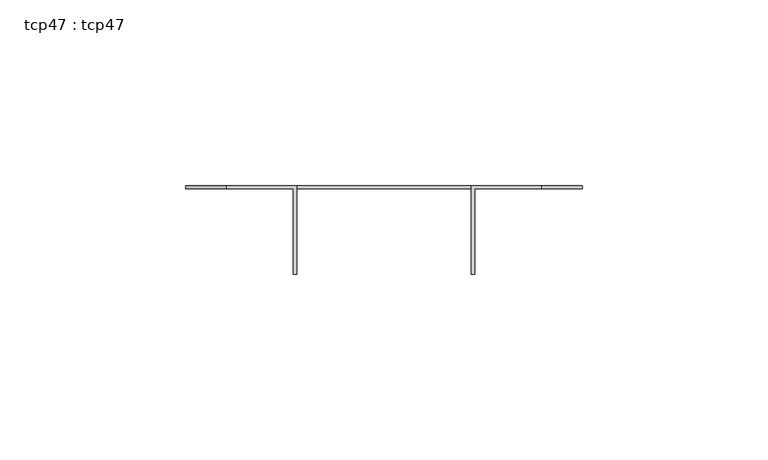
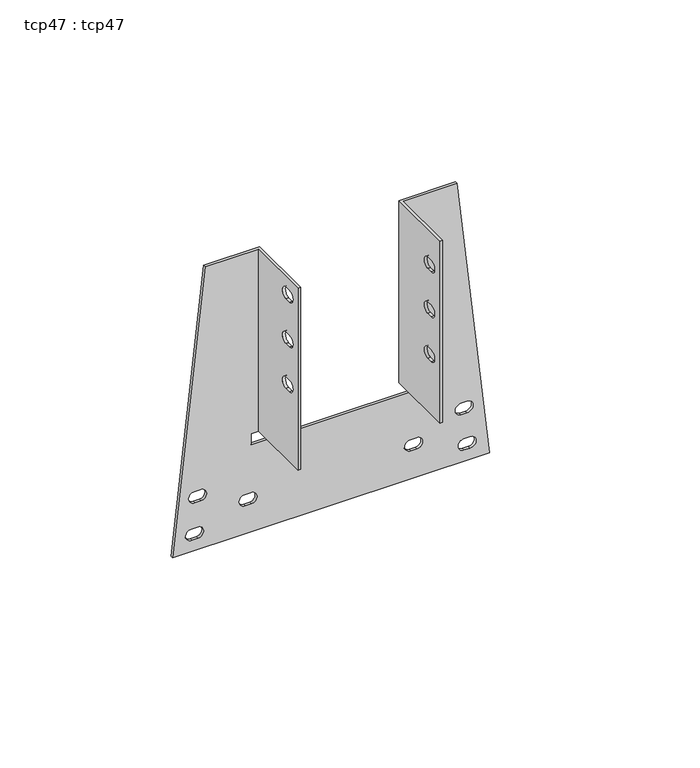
"""IFC4 building model written with IfcOpenShell, lengths in millimetres: fastener geometry, tcp47 : tcp47."""

import ifcopenshell
import ifcopenshell.guid

model = None  # the IFC model being written
_history = None  # IfcOwnerHistory: only IFC2X3 demands one
_inside = {}  # id of a spatial element -> (the spatial element, [elements in it])
_under = {}  # id of a project, library or spatial element -> (it, [spatial elements below it])
_declared = {}  # id of a project -> (the project, [libraries it declares])
_typed = {}  # id of a type object -> (the type object, [elements of that type])
_made_of = {}  # id of a material, layer set ... -> (it, [elements and type objects made of it])


def new_model(schema):
    """Start an empty IFC model of exactly this schema.

    Asked for "IFC4X3", IfcOpenShell would pick the latest addendum, in which some entities
    have other attributes; the version numbers below select the first issue.
    IFC2X3 requires an IfcOwnerHistory on every rooted entity: one is made here for all.
    """
    global model, _history
    if schema == "IFC4X3":
        model = ifcopenshell.file(schema_version=(4, 3, 0, 0))
    else:
        model = ifcopenshell.file(schema=schema)
    _inside.clear()
    _under.clear()
    _declared.clear()
    _typed.clear()
    _made_of.clear()
    _history = None
    if model.schema == "IFC2X3":
        org = make("IfcOrganization", Name="unknown")
        user = make(
            "IfcPersonAndOrganization",
            ThePerson=make("IfcPerson", FamilyName="unknown"),
            TheOrganization=org,
        )
        app = make(
            "IfcApplication",
            ApplicationDeveloper=org,
            Version="unknown",
            ApplicationFullName="unknown",
            ApplicationIdentifier="unknown",
        )
        _history = make(
            "IfcOwnerHistory",
            OwningUser=user,
            OwningApplication=app,
            ChangeAction="ADDED",
            CreationDate=0,
        )
    return model


def make(cls, **values):
    """One entity of the class cls with the attributes given. An attribute that is None is left unset."""
    return model.create_entity(
        cls, **{name: value for name, value in values.items() if value is not None}
    )


def rooted(cls, **values):
    """An entity with a GlobalId (a new one), such as an element, a storey or a relation."""
    return make(cls, GlobalId=ifcopenshell.guid.new(), OwnerHistory=_history, **values)


def si_unit(unit_type, name, prefix=None):
    """IfcSIUnit, for example si_unit("LENGTHUNIT", "METRE", prefix="MILLI")."""
    return make("IfcSIUnit", UnitType=unit_type, Prefix=prefix, Name=name)


def assignment(units):
    """IfcUnitAssignment: the units of a project."""
    return None if units is None else make("IfcUnitAssignment", Units=units)


def point(xyz):
    """IfcCartesianPoint."""
    return None if xyz is None else make("IfcCartesianPoint", Coordinates=xyz)


def direction(xyz):
    """IfcDirection."""
    return None if xyz is None else make("IfcDirection", DirectionRatios=xyz)


def frame(location, z_axis=None, x_axis=None):
    """IfcAxis2Placement3D, a coordinate frame: its origin and axes. An axis left out is left unset."""
    return make(
        "IfcAxis2Placement3D",
        Location=point(location),
        Axis=direction(z_axis),
        RefDirection=direction(x_axis),
    )


def origin():
    """The frame at (0, 0, 0) with its axes left unset."""
    return frame((0.0, 0.0, 0.0))


def place(relative_to, where):
    """IfcLocalPlacement: puts the frame where relative to a parent placement (None: the world)."""
    return make(
        "IfcLocalPlacement", PlacementRelTo=relative_to, RelativePlacement=where
    )


def context(
    kind, dimensions, precision=None, world=None, true_north=None, identifier=None
):
    """IfcGeometricRepresentationContext, for example the 3D "Model" context."""
    return make(
        "IfcGeometricRepresentationContext",
        ContextIdentifier=identifier,
        ContextType=kind,
        CoordinateSpaceDimension=dimensions,
        Precision=precision,
        WorldCoordinateSystem=world,
        TrueNorth=true_north,
    )


def project(units=None, contexts=None):
    """IfcProject with its units and contexts."""
    return rooted(
        "IfcProject",
        Name="project",
        RepresentationContexts=contexts,
        UnitsInContext=assignment(units),
    )


def spatial(cls, under=None, at=None, **own):
    """A site, building, storey or space (cls), placed at a placement, below another one or the project."""
    s = rooted(cls, ObjectPlacement=at, **own)
    if under is not None:
        _under.setdefault(under.id(), (under, []))[1].append(s)
    return s


def polyline(points):
    """IfcPolyline through the points."""
    return make("IfcPolyline", Points=[point(p) for p in points])


def circle_curve(where, radius):
    """IfcCircle in the frame where."""
    return make("IfcCircle", Position=where, Radius=radius)


def shape(context_of_items, identifier, shape_type, items):
    """IfcShapeRepresentation: the items that make up one representation, for example the "Body"."""
    return make(
        "IfcShapeRepresentation",
        ContextOfItems=context_of_items,
        RepresentationIdentifier=identifier,
        RepresentationType=shape_type,
        Items=items,
    )


def source(mapping_origin, context_of_items, identifier, shape_type, items):
    """IfcRepresentationMap: a shape defined once, which mapped items show again and again."""
    return make(
        "IfcRepresentationMap",
        MappingOrigin=mapping_origin,
        MappedRepresentation=shape(context_of_items, identifier, shape_type, items),
    )


def transform(
    local_origin,
    x_axis=None,
    y_axis=None,
    z_axis=None,
    scale=None,
    scale2=None,
    scale3=None,
    uniform=True,
):
    """IfcCartesianTransformationOperator3D, or its non-uniform kind. x_axis, y_axis, z_axis: its Axis1, 2, 3."""
    if uniform:
        return make(
            "IfcCartesianTransformationOperator3D",
            Axis1=direction(x_axis),
            Axis2=direction(y_axis),
            LocalOrigin=point(local_origin),
            Scale=scale,
            Axis3=direction(z_axis),
        )
    return make(
        "IfcCartesianTransformationOperator3DnonUniform",
        Axis1=direction(x_axis),
        Axis2=direction(y_axis),
        LocalOrigin=point(local_origin),
        Scale=scale,
        Axis3=direction(z_axis),
        Scale2=scale2,
        Scale3=scale3,
    )


def mapped(mapping_source, mapping_target):
    """IfcMappedItem: shows the shape of a source again, moved by a transform."""
    return make(
        "IfcMappedItem", MappingSource=mapping_source, MappingTarget=mapping_target
    )


def made_of(thing, what):
    """Note that an element or type object is made of a material, layer set ...; save() writes the relation."""
    if what is not None:
        _made_of.setdefault(what.id(), (what, []))[1].append(thing)
    return thing


def element(
    cls,
    number,
    at=None,
    inside=None,
    cuts=None,
    type_object=None,
    material=None,
    context=None,
    identifier="Body",
    shape_type=None,
    held_by="IfcProductDefinitionShape",
    body=None,
    shapes=None,
    **own,
):
    """One element of the class cls, such as IfcWall. Its Tag is "e" and its number.

    at: its placement. inside: the storey or other place that contains it. cuts: it is an
    opening in that element (IfcRelVoidsElement). A single representation is given by context,
    identifier, shape_type and body (its items); several are given by shapes. held_by: the class
    of the entity that holds the representations. save() writes the other relations.
    """
    e = rooted(cls, Tag="e%d" % number, ObjectPlacement=at, **own)
    if body is not None:
        shapes = [shape(context, identifier, shape_type, body)]
    if shapes is not None:
        e.Representation = make(held_by, Representations=shapes)
    if inside is not None:
        _inside.setdefault(inside.id(), (inside, []))[1].append(e)
    if cuts is not None:
        rooted(
            "IfcRelVoidsElement", RelatingBuildingElement=cuts, RelatedOpeningElement=e
        )
    if type_object is not None:
        _typed.setdefault(type_object.id(), (type_object, []))[1].append(e)
    return made_of(e, material)


def aggregate(whole, parts):
    """IfcRelAggregates: a whole, such as a stair, and the parts it consists of."""
    return rooted("IfcRelAggregates", RelatingObject=whole, RelatedObjects=parts)


def save(model, path):
    """Write the relations noted so far, then the file.

    IfcRelAggregates (storeys below a building ...), IfcRelContainedInSpatialStructure (elements
    in a storey), IfcRelDefinesByType, IfcRelAssociatesMaterial and IfcRelDeclares: one each for
    every whole, place, type object, material and project.
    """
    for whole, parts in _under.values():
        aggregate(whole, parts)
    for where, things in _inside.values():
        rooted(
            "IfcRelContainedInSpatialStructure",
            RelatedElements=things,
            RelatingStructure=where,
        )
    for kind, things in _typed.values():
        rooted("IfcRelDefinesByType", RelatedObjects=things, RelatingType=kind)
    for what, things in _made_of.values():
        rooted("IfcRelAssociatesMaterial", RelatedObjects=things, RelatingMaterial=what)
    for by, libraries in _declared.values():
        rooted("IfcRelDeclares", RelatingContext=by, RelatedDefinitions=libraries)
    model.write(path)


def plane_surface(at):
    """IfcPlane: the flat surface through the origin of the frame at, square to its z axis."""
    return make("IfcPlane", Position=at)


def revolved_surface(curve, axis_point, axis_direction):
    """IfcSurfaceOfRevolution: the curve turned about the line through axis_point along axis_direction."""
    return make(
        "IfcSurfaceOfRevolution",
        SweptCurve=make("IfcArbitraryOpenProfileDef", ProfileType="CURVE", Curve=curve),
        AxisPosition=make("IfcAxis1Placement", Location=point(axis_point), Axis=direction(axis_direction)),
    )


def advanced_brep(points, edges, surfaces, faces):
    """IfcAdvancedBrep: a solid bounded by faces that lie on surfaces and meet in shared edges.

    An edge is (start, end): straight between two places in points (the first is 0);
    or (start, end, curve); or (start, end, curve, False) where it runs against its curve.
    A face is (place in surfaces, loops), or (place, loops, False) where it looks against
    its surface's normal. A loop lists edges by number (the first is 1), with a minus sign
    where the edge is run from its end to its start. The first loop is the outer one.
    """
    corners = [point(p) for p in points]
    vertices = [make("IfcVertexPoint", VertexGeometry=c) for c in corners]
    made = []
    for start, end, *more in edges:
        made.append(
            make(
                "IfcEdgeCurve",
                EdgeStart=vertices[start],
                EdgeEnd=vertices[end],
                EdgeGeometry=more[0] if more else make("IfcPolyline", Points=[corners[start], corners[end]]),
                SameSense=more[1] if len(more) > 1 else True,
            )
        )
    hull = []
    for where, loops, *sense in faces:
        bounds = []
        for j, loop in enumerate(loops):
            ring = [make("IfcOrientedEdge", EdgeElement=made[abs(k) - 1], Orientation=k > 0) for k in loop]
            bounds.append(
                make(
                    "IfcFaceOuterBound" if j == 0 else "IfcFaceBound",
                    Bound=make("IfcEdgeLoop", EdgeList=ring),
                    Orientation=True,
                )
            )
        hull.append(make("IfcAdvancedFace", Bounds=bounds, FaceSurface=surfaces[where], SameSense=sense[0] if sense else True))
    return make("IfcAdvancedBrep", Outer=make("IfcClosedShell", CfsFaces=hull))


def tcp47_tcp47_5fc6ffc4(model_context):
    return source(origin(), model_context, "Body", "AdvancedBrep", [
        advanced_brep(
        [(24.4, -18.9, 23.0), (24.4, -18.9, 19.0), (23.5, -18.9, 19.0), (23.5, -18.9, 23.0), (24.4, -16.9, 19.0), (23.5, -16.9, 19.0), (24.4, -16.9, 23.0), (23.5, -16.9, 23.0), (24.4, -18.9, 39.0), (24.4, -18.9, 35.0), (23.5, -18.9, 35.0), (23.5, -18.9, 39.0), (24.4, -16.9, 35.0), (23.5, -16.9, 35.0), (24.4, -16.9, 39.0), (23.5, -16.9, 39.0), (24.4, -18.9, 55.0), (24.4, -18.9, 51.0), (23.5, -18.9, 51.0), (23.5, -18.9, 55.0), (24.4, -16.9, 51.0), (23.5, -16.9, 51.0), (24.4, -16.9, 55.0), (23.5, -16.9, 55.0), (-24.4, -16.9, 29.0), (-24.4, -16.9, 25.0), (-23.5, -16.9, 25.0), (-23.5, -16.9, 29.0), (-24.4, -18.9, 25.0), (-23.5, -18.9, 25.0), (-24.4, -18.9, 29.0), (-23.5, -18.9, 29.0), (-24.4, -16.9, 45.0), (-24.4, -16.9, 41.0), (-23.5, -16.9, 41.0), (-23.5, -16.9, 45.0), (-24.4, -18.9, 41.0), (-23.5, -18.9, 41.0), (-24.4, -18.9, 45.0), (-23.5, -18.9, 45.0), (-24.4, -16.9, 61.0), (-24.4, -16.9, 57.0), (-23.5, -16.9, 57.0), (-23.5, -16.9, 61.0), (-24.4, -18.9, 57.0), (-23.5, -18.9, 57.0), (-24.4, -18.9, 61.0), (-23.5, -18.9, 61.0), (47.0, -0.9, -31.0), (47.0, -0.9, -27.0), (47.0, 0.0, -27.0), (47.0, 0.0, -31.0), (45.0, -0.9, -31.0), (45.0, 0.0, -31.0), (45.0, -0.9, -27.0), (45.0, 0.0, -27.0), (46.0, -0.9, -18.0), (46.0, -0.9, -14.0), (46.0, 0.0, -14.0), (46.0, 0.0, -18.0), (44.0, -0.9, -18.0), (44.0, 0.0, -18.0), (44.0, -0.9, -14.0), (44.0, 0.0, -14.0), (29.0, -0.9, -25.0), (29.0, -0.9, -21.0), (29.0, 0.0, -21.0), (29.0, 0.0, -25.0), (27.0, -0.9, -25.0), (27.0, 0.0, -25.0), (27.0, -0.9, -21.0), (27.0, 0.0, -21.0), (24.4, -0.9, 0.0), (24.4, -0.9, 65.0), (24.4, -23.9, 65.0), (24.4, -23.9, 0.0), (23.5, -23.9, 65.0), (23.5, -23.9, 0.0), (53.5, 0.0, -35.0), (42.5, 0.0, 65.0), (42.5, -0.9, 65.0), (53.5, -0.9, -35.0), (23.5, 0.0, 65.0), (23.5, 0.0, 0.0), (27.0, 0.0, 0.0), (27.0, -0.9, 0.0), (27.0, 0.0, -4.0), (27.0, -0.9, -4.0), (-47.0, -0.9, -27.0), (-47.0, -0.9, -31.0), (-47.0, 0.0, -31.0), (-47.0, 0.0, -27.0), (-45.0, -0.9, -31.0), (-45.0, 0.0, -31.0), (-45.0, -0.9, -27.0), (-45.0, 0.0, -27.0), (-46.0, -0.9, -14.0), (-46.0, -0.9, -18.0), (-46.0, 0.0, -18.0), (-46.0, 0.0, -14.0), (-44.0, -0.9, -18.0), (-44.0, 0.0, -18.0), (-44.0, -0.9, -14.0), (-44.0, 0.0, -14.0), (-29.0, -0.9, -21.0), (-29.0, -0.9, -25.0), (-29.0, 0.0, -25.0), (-29.0, 0.0, -21.0), (-27.0, -0.9, -25.0), (-27.0, 0.0, -25.0), (-27.0, -0.9, -21.0), (-27.0, 0.0, -21.0), (-24.4, -0.9, 65.0), (-24.4, -0.9, 0.0), (-24.4, -23.9, 0.0), (-24.4, -23.9, 65.0), (-23.5, -23.9, 0.0), (-23.5, -23.9, 65.0), (-53.5, 0.0, -35.0), (-53.5, -0.9, -35.0), (-42.5, 0.0, 65.0), (-42.5, -0.9, 65.0), (-23.5, 0.0, 65.0), (-23.5, 0.0, 0.0), (-27.0, 0.0, 0.0), (-27.0, -0.9, 0.0), (-27.0, 0.0, -4.0), (-27.0, -0.9, -4.0)],
        [
            (0, 1, circle_curve(frame((24.4, -18.9, 21.0), z_axis=(1.0, 0.0, 0.0), x_axis=(0.0, 0.0, -1.0)), 2.0)),
            (1, 2),
            (2, 3, circle_curve(frame((23.5, -18.9, 21.0), z_axis=(-1.0, 0.0, 0.0), x_axis=(0.0, 0.0, -1.0)), 2.0)),
            (3, 0),
            (1, 4),
            (4, 5),
            (5, 2),
            (4, 6, circle_curve(frame((24.4, -16.9, 21.0), z_axis=(1.0, 0.0, 0.0), x_axis=(0.0, 0.0, 1.0)), 2.0)),
            (6, 7),
            (7, 5, circle_curve(frame((23.5, -16.9, 21.0), z_axis=(-1.0, 0.0, 0.0), x_axis=(0.0, 0.0, 1.0)), 2.0)),
            (6, 0),
            (3, 7),
            (8, 9, circle_curve(frame((24.4, -18.9, 37.0), z_axis=(1.0, 0.0, 0.0), x_axis=(0.0, 0.0, -1.0)), 2.0)),
            (9, 10),
            (10, 11, circle_curve(frame((23.5, -18.9, 37.0), z_axis=(-1.0, 0.0, 0.0), x_axis=(0.0, 0.0, -1.0)), 2.0)),
            (11, 8),
            (9, 12),
            (12, 13),
            (13, 10),
            (12, 14, circle_curve(frame((24.4, -16.9, 37.0), z_axis=(1.0, 0.0, 0.0), x_axis=(0.0, 0.0, 1.0)), 2.0)),
            (14, 15),
            (15, 13, circle_curve(frame((23.5, -16.9, 37.0), z_axis=(-1.0, 0.0, 0.0), x_axis=(0.0, 0.0, 1.0)), 2.0)),
            (14, 8),
            (11, 15),
            (16, 17, circle_curve(frame((24.4, -18.9, 53.0), z_axis=(1.0, 0.0, 0.0), x_axis=(0.0, 0.0, -1.0)), 2.0)),
            (17, 18),
            (18, 19, circle_curve(frame((23.5, -18.9, 53.0), z_axis=(-1.0, 0.0, 0.0), x_axis=(0.0, 0.0, -1.0)), 2.0)),
            (19, 16),
            (17, 20),
            (20, 21),
            (21, 18),
            (20, 22, circle_curve(frame((24.4, -16.9, 53.0), z_axis=(1.0, 0.0, 0.0), x_axis=(0.0, 0.0, 1.0)), 2.0)),
            (22, 23),
            (23, 21, circle_curve(frame((23.5, -16.9, 53.0), z_axis=(-1.0, 0.0, 0.0), x_axis=(0.0, 0.0, 1.0)), 2.0)),
            (22, 16),
            (19, 23),
            (24, 25, circle_curve(frame((-24.4, -16.9, 27.0), z_axis=(-1.0, 0.0, 0.0), x_axis=(0.0, 0.0, -1.0)), 2.0)),
            (25, 26),
            (26, 27, circle_curve(frame((-23.5, -16.9, 27.0), z_axis=(1.0, 0.0, 0.0), x_axis=(0.0, 0.0, -1.0)), 2.0)),
            (27, 24),
            (25, 28),
            (28, 29),
            (29, 26),
            (28, 30, circle_curve(frame((-24.4, -18.9, 27.0), z_axis=(-1.0, 0.0, 0.0), x_axis=(0.0, 0.0, 1.0)), 2.0)),
            (30, 31),
            (31, 29, circle_curve(frame((-23.5, -18.9, 27.0), z_axis=(1.0, 0.0, 0.0), x_axis=(0.0, 0.0, 1.0)), 2.0)),
            (30, 24),
            (27, 31),
            (32, 33, circle_curve(frame((-24.4, -16.9, 43.0), z_axis=(-1.0, 0.0, 0.0), x_axis=(0.0, 0.0, -1.0)), 2.0)),
            (33, 34),
            (34, 35, circle_curve(frame((-23.5, -16.9, 43.0), z_axis=(1.0, 0.0, 0.0), x_axis=(0.0, 0.0, -1.0)), 2.0)),
            (35, 32),
            (33, 36),
            (36, 37),
            (37, 34),
            (36, 38, circle_curve(frame((-24.4, -18.9, 43.0), z_axis=(-1.0, 0.0, 0.0), x_axis=(0.0, 0.0, 1.0)), 2.0)),
            (38, 39),
            (39, 37, circle_curve(frame((-23.5, -18.9, 43.0), z_axis=(1.0, 0.0, 0.0), x_axis=(0.0, 0.0, 1.0)), 2.0)),
            (38, 32),
            (35, 39),
            (40, 41, circle_curve(frame((-24.4, -16.9, 59.0), z_axis=(-1.0, 0.0, 0.0), x_axis=(0.0, 0.0, -1.0)), 2.0)),
            (41, 42),
            (42, 43, circle_curve(frame((-23.5, -16.9, 59.0), z_axis=(1.0, 0.0, 0.0), x_axis=(0.0, 0.0, -1.0)), 2.0)),
            (43, 40),
            (41, 44),
            (44, 45),
            (45, 42),
            (44, 46, circle_curve(frame((-24.4, -18.9, 59.0), z_axis=(-1.0, 0.0, 0.0), x_axis=(0.0, 0.0, 1.0)), 2.0)),
            (46, 47),
            (47, 45, circle_curve(frame((-23.5, -18.9, 59.0), z_axis=(1.0, 0.0, 0.0), x_axis=(0.0, 0.0, 1.0)), 2.0)),
            (46, 40),
            (43, 47),
            (48, 49, circle_curve(frame((47.0, -0.9, -29.0), z_axis=(0.0, -1.0, 0.0), x_axis=(0.0, 0.0, -1.0)), 2.0)),
            (49, 50),
            (50, 51, circle_curve(frame((47.0, 0.0, -29.0), z_axis=(0.0, 1.0, 0.0), x_axis=(0.0, 0.0, -1.0)), 2.0)),
            (51, 48),
            (52, 48),
            (51, 53),
            (53, 52),
            (54, 52, circle_curve(frame((45.0, -0.9, -29.0), z_axis=(0.0, -1.0, 0.0), x_axis=(0.0, 0.0, 1.0)), 2.0)),
            (53, 55, circle_curve(frame((45.0, 0.0, -29.0), z_axis=(0.0, 1.0, 0.0), x_axis=(0.0, 0.0, 1.0)), 2.0)),
            (55, 54),
            (49, 54),
            (55, 50),
            (56, 57, circle_curve(frame((46.0, -0.9, -16.0), z_axis=(0.0, -1.0, 0.0), x_axis=(0.0, 0.0, -1.0)), 2.0)),
            (57, 58),
            (58, 59, circle_curve(frame((46.0, 0.0, -16.0), z_axis=(0.0, 1.0, 0.0), x_axis=(0.0, 0.0, -1.0)), 2.0)),
            (59, 56),
            (60, 56),
            (59, 61),
            (61, 60),
            (62, 60, circle_curve(frame((44.0, -0.9, -16.0), z_axis=(0.0, -1.0, 0.0), x_axis=(0.0, 0.0, 1.0)), 2.0)),
            (61, 63, circle_curve(frame((44.0, 0.0, -16.0), z_axis=(0.0, 1.0, 0.0), x_axis=(0.0, 0.0, 1.0)), 2.0)),
            (63, 62),
            (57, 62),
            (63, 58),
            (64, 65, circle_curve(frame((29.0, -0.9, -23.0), z_axis=(0.0, -1.0, 0.0), x_axis=(0.0, 0.0, -1.0)), 2.0)),
            (65, 66),
            (66, 67, circle_curve(frame((29.0, 0.0, -23.0), z_axis=(0.0, 1.0, 0.0), x_axis=(0.0, 0.0, -1.0)), 2.0)),
            (67, 64),
            (68, 64),
            (67, 69),
            (69, 68),
            (70, 68, circle_curve(frame((27.0, -0.9, -23.0), z_axis=(0.0, -1.0, 0.0), x_axis=(0.0, 0.0, 1.0)), 2.0)),
            (69, 71, circle_curve(frame((27.0, 0.0, -23.0), z_axis=(0.0, 1.0, 0.0), x_axis=(0.0, 0.0, 1.0)), 2.0)),
            (71, 70),
            (65, 70),
            (71, 66),
            (72, 73),
            (73, 74),
            (74, 75),
            (75, 72),
            (76, 77),
            (77, 75),
            (74, 76),
            (78, 79),
            (79, 80),
            (80, 81),
            (81, 78),
            (79, 82),
            (82, 76),
            (73, 80),
            (82, 83),
            (83, 77),
            (83, 84),
            (84, 85),
            (85, 72),
            (84, 86),
            (86, 87),
            (87, 85),
            (88, 89, circle_curve(frame((-47.0, -0.9, -29.0), z_axis=(0.0, -1.0, 0.0), x_axis=(0.0, 0.0, -1.0)), 2.0)),
            (89, 90),
            (90, 91, circle_curve(frame((-47.0, 0.0, -29.0), z_axis=(0.0, 1.0, 0.0), x_axis=(0.0, 0.0, -1.0)), 2.0)),
            (91, 88),
            (89, 92),
            (92, 93),
            (93, 90),
            (92, 94, circle_curve(frame((-45.0, -0.9, -29.0), z_axis=(0.0, -1.0, 0.0), x_axis=(0.0, 0.0, 1.0)), 2.0)),
            (94, 95),
            (95, 93, circle_curve(frame((-45.0, 0.0, -29.0), z_axis=(0.0, 1.0, 0.0), x_axis=(0.0, 0.0, 1.0)), 2.0)),
            (94, 88),
            (91, 95),
            (96, 97, circle_curve(frame((-46.0, -0.9, -16.0), z_axis=(0.0, -1.0, 0.0), x_axis=(0.0, 0.0, -1.0)), 2.0)),
            (97, 98),
            (98, 99, circle_curve(frame((-46.0, 0.0, -16.0), z_axis=(0.0, 1.0, 0.0), x_axis=(0.0, 0.0, -1.0)), 2.0)),
            (99, 96),
            (97, 100),
            (100, 101),
            (101, 98),
            (100, 102, circle_curve(frame((-44.0, -0.9, -16.0), z_axis=(0.0, -1.0, 0.0), x_axis=(0.0, 0.0, 1.0)), 2.0)),
            (102, 103),
            (103, 101, circle_curve(frame((-44.0, 0.0, -16.0), z_axis=(0.0, 1.0, 0.0), x_axis=(0.0, 0.0, 1.0)), 2.0)),
            (102, 96),
            (99, 103),
            (104, 105, circle_curve(frame((-29.0, -0.9, -23.0), z_axis=(0.0, -1.0, 0.0), x_axis=(0.0, 0.0, -1.0)), 2.0)),
            (105, 106),
            (106, 107, circle_curve(frame((-29.0, 0.0, -23.0), z_axis=(0.0, 1.0, 0.0), x_axis=(0.0, 0.0, -1.0)), 2.0)),
            (107, 104),
            (105, 108),
            (108, 109),
            (109, 106),
            (108, 110, circle_curve(frame((-27.0, -0.9, -23.0), z_axis=(0.0, -1.0, 0.0), x_axis=(0.0, 0.0, 1.0)), 2.0)),
            (110, 111),
            (111, 109, circle_curve(frame((-27.0, 0.0, -23.0), z_axis=(0.0, 1.0, 0.0), x_axis=(0.0, 0.0, 1.0)), 2.0)),
            (110, 104),
            (107, 111),
            (112, 113),
            (113, 114),
            (114, 115),
            (115, 112),
            (116, 117),
            (117, 115),
            (114, 116),
            (118, 78),
            (81, 119),
            (119, 118),
            (120, 118),
            (119, 121),
            (121, 120),
            (122, 120),
            (121, 112),
            (117, 122),
            (123, 122),
            (116, 123),
            (124, 123),
            (113, 125),
            (125, 124),
            (126, 124),
            (125, 127),
            (127, 126),
            (86, 126),
            (127, 87),
        ],
        [
            revolved_surface(polyline([(23.5, -18.9, 19.0), (24.4, -18.9, 19.0)]), (24.4, -18.9, 21.0), (-1.0, 0.0, 0.0)),
            plane_surface(frame((24.4, -16.9, 19.0), z_axis=(0.0, 0.0, 1.0), x_axis=(0.0, -1.0, 0.0))),
            revolved_surface(polyline([(23.5, -16.9, 23.0), (24.4, -16.9, 23.0)]), (24.4, -16.9, 21.0), (-1.0, 0.0, 0.0)),
            plane_surface(frame((24.4, -18.9, 23.0), z_axis=(0.0, 0.0, -1.0), x_axis=(0.0, 1.0, 0.0))),
            revolved_surface(polyline([(23.5, -18.9, 35.0), (24.4, -18.9, 35.0)]), (24.4, -18.9, 37.0), (-1.0, 0.0, 0.0)),
            plane_surface(frame((24.4, -16.9, 35.0), z_axis=(0.0, 0.0, 1.0), x_axis=(0.0, -1.0, 0.0))),
            revolved_surface(polyline([(23.5, -16.9, 39.0), (24.4, -16.9, 39.0)]), (24.4, -16.9, 37.0), (-1.0, 0.0, 0.0)),
            plane_surface(frame((24.4, -18.9, 39.0), z_axis=(0.0, 0.0, -1.0), x_axis=(0.0, 1.0, 0.0))),
            revolved_surface(polyline([(23.5, -18.9, 51.0), (24.4, -18.9, 51.0)]), (24.4, -18.9, 53.0), (-1.0, 0.0, 0.0)),
            plane_surface(frame((24.4, -16.9, 51.0), z_axis=(0.0, 0.0, 1.0), x_axis=(0.0, -1.0, 0.0))),
            revolved_surface(polyline([(23.5, -16.9, 55.0), (24.4, -16.9, 55.0)]), (24.4, -16.9, 53.0), (-1.0, 0.0, 0.0)),
            plane_surface(frame((24.4, -18.9, 55.0), z_axis=(0.0, 0.0, -1.0), x_axis=(0.0, 1.0, 0.0))),
            revolved_surface(polyline([(-23.5, -16.9, 25.0), (-24.4, -16.9, 25.0)]), (-24.4, -16.9, 27.0), (1.0, 0.0, 0.0)),
            plane_surface(frame((-24.4, -18.9, 25.0), z_axis=(0.0, 0.0, 1.0), x_axis=(0.0, 1.0, 0.0))),
            revolved_surface(polyline([(-23.5, -18.9, 29.0), (-24.4, -18.9, 29.0)]), (-24.4, -18.9, 27.0), (1.0, 0.0, 0.0)),
            plane_surface(frame((-24.4, -16.9, 29.0), z_axis=(0.0, 0.0, -1.0), x_axis=(0.0, -1.0, 0.0))),
            revolved_surface(polyline([(-23.5, -16.9, 41.0), (-24.4, -16.9, 41.0)]), (-24.4, -16.9, 43.0), (1.0, 0.0, 0.0)),
            plane_surface(frame((-24.4, -18.9, 41.0), z_axis=(0.0, 0.0, 1.0), x_axis=(0.0, 1.0, 0.0))),
            revolved_surface(polyline([(-23.5, -18.9, 45.0), (-24.4, -18.9, 45.0)]), (-24.4, -18.9, 43.0), (1.0, 0.0, 0.0)),
            plane_surface(frame((-24.4, -16.9, 45.0), z_axis=(0.0, 0.0, -1.0), x_axis=(0.0, -1.0, 0.0))),
            revolved_surface(polyline([(-23.5, -16.9, 57.0), (-24.4, -16.9, 57.0)]), (-24.4, -16.9, 59.0), (1.0, 0.0, 0.0)),
            plane_surface(frame((-24.4, -18.9, 57.0), z_axis=(0.0, 0.0, 1.0), x_axis=(0.0, 1.0, 0.0))),
            revolved_surface(polyline([(-23.5, -18.9, 61.0), (-24.4, -18.9, 61.0)]), (-24.4, -18.9, 59.0), (1.0, 0.0, 0.0)),
            plane_surface(frame((-24.4, -16.9, 61.0), z_axis=(0.0, 0.0, -1.0), x_axis=(0.0, -1.0, 0.0))),
            revolved_surface(polyline([(47.0, -0.9, -31.0), (47.0, 0.0, -31.0)]), (47.0, -0.9, -29.0), (0.0, -1.0, 0.0)),
            plane_surface(frame((45.0, -0.9, -31.0), z_axis=(0.0, 0.0, 1.0), x_axis=(1.0, 0.0, 0.0))),
            revolved_surface(polyline([(45.0, -0.9, -27.0), (45.0, 0.0, -27.0)]), (45.0, -0.9, -29.0), (0.0, -1.0, 0.0)),
            plane_surface(frame((47.0, -0.9, -27.0), z_axis=(0.0, 0.0, -1.0), x_axis=(-1.0, 0.0, 0.0))),
            revolved_surface(polyline([(46.0, -0.9, -18.0), (46.0, 0.0, -18.0)]), (46.0, -0.9, -16.0), (0.0, -1.0, 0.0)),
            plane_surface(frame((44.0, -0.9, -18.0), z_axis=(0.0, 0.0, 1.0), x_axis=(1.0, 0.0, 0.0))),
            revolved_surface(polyline([(44.0, -0.9, -14.0), (44.0, 0.0, -14.0)]), (44.0, -0.9, -16.0), (0.0, -1.0, 0.0)),
            plane_surface(frame((46.0, -0.9, -14.0), z_axis=(0.0, 0.0, -1.0), x_axis=(-1.0, 0.0, 0.0))),
            revolved_surface(polyline([(29.0, -0.9, -25.0), (29.0, 0.0, -25.0)]), (29.0, -0.9, -23.0), (0.0, -1.0, 0.0)),
            plane_surface(frame((27.0, -0.9, -25.0), z_axis=(0.0, 0.0, 1.0), x_axis=(1.0, 0.0, 0.0))),
            revolved_surface(polyline([(27.0, -0.9, -21.0), (27.0, 0.0, -21.0)]), (27.0, -0.9, -23.0), (0.0, -1.0, 0.0)),
            plane_surface(frame((29.0, -0.9, -21.0), z_axis=(0.0, 0.0, -1.0), x_axis=(-1.0, 0.0, 0.0))),
            plane_surface(frame((24.4, -0.9, 65.0), z_axis=(1.0, 0.0, 0.0), x_axis=(0.0, 0.0, -1.0))),
            plane_surface(frame((23.95, -23.9, 32.5), z_axis=(0.0, -1.0, 0.0), x_axis=(0.0, 0.0, -1.0))),
            plane_surface(frame((42.5, 0.0, 65.0), z_axis=(0.994004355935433, 0.0, 0.10934047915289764), x_axis=(0.10934047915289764, 0.0, -0.994004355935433))),
            plane_surface(frame((23.5, 0.0, 65.0), z_axis=(0.0, 0.0, 1.0), x_axis=(1.0, 0.0, 0.0))),
            plane_surface(frame((23.5, 0.0, 0.0), z_axis=(-1.0, 0.0, 0.0), x_axis=(0.0, 0.0, 1.0))),
            plane_surface(frame((27.0, 0.0, 0.0), z_axis=(0.0, 0.0, -1.0), x_axis=(-1.0, 0.0, 0.0))),
            plane_surface(frame((27.0, 0.0, -4.0), z_axis=(-1.0, 0.0, 0.0), x_axis=(0.0, 0.0, 1.0))),
            revolved_surface(polyline([(-47.0, 0.0, -31.0), (-47.0, -0.9, -31.0)]), (-47.0, -0.9, -29.0), (0.0, 1.0, 0.0)),
            plane_surface(frame((-45.0, -0.9, -31.0), z_axis=(0.0, 0.0, 1.0), x_axis=(-1.0, 0.0, 0.0))),
            revolved_surface(polyline([(-45.0, 0.0, -27.0), (-45.0, -0.9, -27.0)]), (-45.0, -0.9, -29.0), (0.0, 1.0, 0.0)),
            plane_surface(frame((-47.0, -0.9, -27.0), z_axis=(0.0, 0.0, -1.0), x_axis=(1.0, 0.0, 0.0))),
            revolved_surface(polyline([(-46.0, 0.0, -18.0), (-46.0, -0.9, -18.0)]), (-46.0, -0.9, -16.0), (0.0, 1.0, 0.0)),
            plane_surface(frame((-44.0, -0.9, -18.0), z_axis=(0.0, 0.0, 1.0), x_axis=(-1.0, 0.0, 0.0))),
            revolved_surface(polyline([(-44.0, 0.0, -14.0), (-44.0, -0.9, -14.0)]), (-44.0, -0.9, -16.0), (0.0, 1.0, 0.0)),
            plane_surface(frame((-46.0, -0.9, -14.0), z_axis=(0.0, 0.0, -1.0), x_axis=(1.0, 0.0, 0.0))),
            revolved_surface(polyline([(-29.0, 0.0, -25.0), (-29.0, -0.9, -25.0)]), (-29.0, -0.9, -23.0), (0.0, 1.0, 0.0)),
            plane_surface(frame((-27.0, -0.9, -25.0), z_axis=(0.0, 0.0, 1.0), x_axis=(-1.0, 0.0, 0.0))),
            revolved_surface(polyline([(-27.0, 0.0, -21.0), (-27.0, -0.9, -21.0)]), (-27.0, -0.9, -23.0), (0.0, 1.0, 0.0)),
            plane_surface(frame((-29.0, -0.9, -21.0), z_axis=(0.0, 0.0, -1.0), x_axis=(1.0, 0.0, 0.0))),
            plane_surface(frame((-24.4, -0.9, 65.0), z_axis=(-1.0, 0.0, 0.0), x_axis=(0.0, 0.0, -1.0))),
            plane_surface(frame((-23.95, -23.9, 32.5), z_axis=(0.0, -1.0, 0.0), x_axis=(0.0, 0.0, -1.0))),
            plane_surface(frame((-53.5, 0.0, -35.0), z_axis=(0.0, 0.0, -1.0), x_axis=(1.0, 0.0, 0.0))),
            plane_surface(frame((-42.5, 0.0, 65.0), z_axis=(-0.994004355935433, 0.0, 0.10934047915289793), x_axis=(-0.10934047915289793, 0.0, -0.994004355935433))),
            plane_surface(frame((-23.5, 0.0, 65.0), z_axis=(0.0, 0.0, 1.0), x_axis=(-1.0, 0.0, 0.0))),
            plane_surface(frame((-23.5, 0.0, 0.0), z_axis=(1.0, 0.0, 0.0), x_axis=(0.0, 0.0, 1.0))),
            plane_surface(frame((-27.0, 0.0, 0.0), z_axis=(0.0, 0.0, -1.0), x_axis=(1.0, 0.0, 0.0))),
            plane_surface(frame((-27.0, 0.0, -4.0), z_axis=(1.0, 0.0, 0.0), x_axis=(0.0, 0.0, 1.0))),
            plane_surface(frame((0.0, 0.0, -4.0), z_axis=(0.0, 0.0, 1.0), x_axis=(-1.0, 0.0, 0.0))),
            plane_surface(frame((-29.5631049, 0.0, 7.4556126), z_axis=(0.0, 1.0, 0.0), x_axis=(0.0, 0.0, -1.0))),
            plane_surface(frame((-29.5631049, -0.9, 7.4556126), z_axis=(0.0, -1.0, 0.0), x_axis=(0.0, 0.0, -1.0))),
        ],
        [
            (0, [[1, 2, 3, 4]]),
            (1, [[5, 6, 7, -2]]),
            (2, [[8, 9, 10, -6]]),
            (3, [[11, -4, 12, -9]]),
            (4, [[13, 14, 15, 16]]),
            (5, [[17, 18, 19, -14]]),
            (6, [[20, 21, 22, -18]]),
            (7, [[23, -16, 24, -21]]),
            (8, [[25, 26, 27, 28]]),
            (9, [[29, 30, 31, -26]]),
            (10, [[32, 33, 34, -30]]),
            (11, [[35, -28, 36, -33]]),
            (12, [[37, 38, 39, 40]]),
            (13, [[41, 42, 43, -38]]),
            (14, [[44, 45, 46, -42]]),
            (15, [[47, -40, 48, -45]]),
            (16, [[49, 50, 51, 52]]),
            (17, [[53, 54, 55, -50]]),
            (18, [[56, 57, 58, -54]]),
            (19, [[59, -52, 60, -57]]),
            (20, [[61, 62, 63, 64]]),
            (21, [[65, 66, 67, -62]]),
            (22, [[68, 69, 70, -66]]),
            (23, [[71, -64, 72, -69]]),
            (24, [[73, 74, 75, 76]]),
            (25, [[77, -76, 78, 79]]),
            (26, [[80, -79, 81, 82]]),
            (27, [[83, -82, 84, -74]]),
            (28, [[85, 86, 87, 88]]),
            (29, [[89, -88, 90, 91]]),
            (30, [[92, -91, 93, 94]]),
            (31, [[95, -94, 96, -86]]),
            (32, [[97, 98, 99, 100]]),
            (33, [[101, -100, 102, 103]]),
            (34, [[104, -103, 105, 106]]),
            (35, [[107, -106, 108, -98]]),
            (36, [[109, 110, 111, 112], [-1, -11, -8, -5], [-13, -23, -20, -17], [-25, -35, -32, -29]]),
            (37, [[113, 114, -111, 115]]),
            (38, [[116, 117, 118, 119]]),
            (39, [[120, 121, -115, -110, 122, -117]]),
            (40, [[123, 124, -113, -121], [-3, -7, -10, -12], [-15, -19, -22, -24], [-27, -31, -34, -36]]),
            (41, [[125, 126, 127, -112, -114, -124]]),
            (42, [[128, 129, 130, -126]]),
            (43, [[131, 132, 133, 134]]),
            (44, [[135, 136, 137, -132]]),
            (45, [[138, 139, 140, -136]]),
            (46, [[141, -134, 142, -139]]),
            (47, [[143, 144, 145, 146]]),
            (48, [[147, 148, 149, -144]]),
            (49, [[150, 151, 152, -148]]),
            (50, [[153, -146, 154, -151]]),
            (51, [[155, 156, 157, 158]]),
            (52, [[159, 160, 161, -156]]),
            (53, [[162, 163, 164, -160]]),
            (54, [[165, -158, 166, -163]]),
            (55, [[167, 168, 169, 170], [-37, -47, -44, -41], [-49, -59, -56, -53], [-61, -71, -68, -65]]),
            (56, [[171, 172, -169, 173]]),
            (57, [[174, -119, 175, 176]]),
            (58, [[177, -176, 178, 179]]),
            (59, [[180, -179, 181, -170, -172, 182]]),
            (60, [[183, -182, -171, 184], [-39, -43, -46, -48], [-51, -55, -58, -60], [-63, -67, -70, -72]]),
            (61, [[185, -184, -173, -168, 186, 187]]),
            (62, [[188, -187, 189, 190]]),
            (63, [[191, -190, 192, -129]]),
            (64, [[-174, -177, -180, -183, -185, -188, -191, -128, -125, -123, -120, -116], [-75, -84, -81, -78], [-87, -96, -93, -90], [-99, -108, -105, -102], [-133, -137, -140, -142], [-145, -149, -152, -154], [-157, -161, -164, -166]]),
            (65, [[-167, -181, -178, -175, -118, -122, -109, -127, -130, -192, -189, -186], [-73, -77, -80, -83], [-85, -89, -92, -95], [-97, -101, -104, -107], [-131, -141, -138, -135], [-143, -153, -150, -147], [-155, -165, -162, -159]]),
        ],
    ),
    ])


if __name__ == "__main__":
    model = new_model("IFC4")
    model_context = context("Model", 3, world=origin())
    ifc_project = project(units=[si_unit("LENGTHUNIT", "METRE", prefix="MILLI")], contexts=[model_context])
    site = spatial("IfcSite", under=ifc_project)
    building = spatial("IfcBuilding", under=site)
    placement = place(None, origin())
    tcp47_tcp47_shape = tcp47_tcp47_5fc6ffc4(model_context)
    element("IfcFastener", 1, ObjectType="tcp47 : tcp47", at=placement, inside=building, context=model_context, shape_type="MappedRepresentation", body=[
        mapped(tcp47_tcp47_shape, transform((0.0, 0.0, 0.0), x_axis=(1.0, 0.0, 0.0), y_axis=(0.0, 1.0, 0.0), z_axis=(0.0, 0.0, 1.0))),
    ])
    save(model, "model.ifc")
